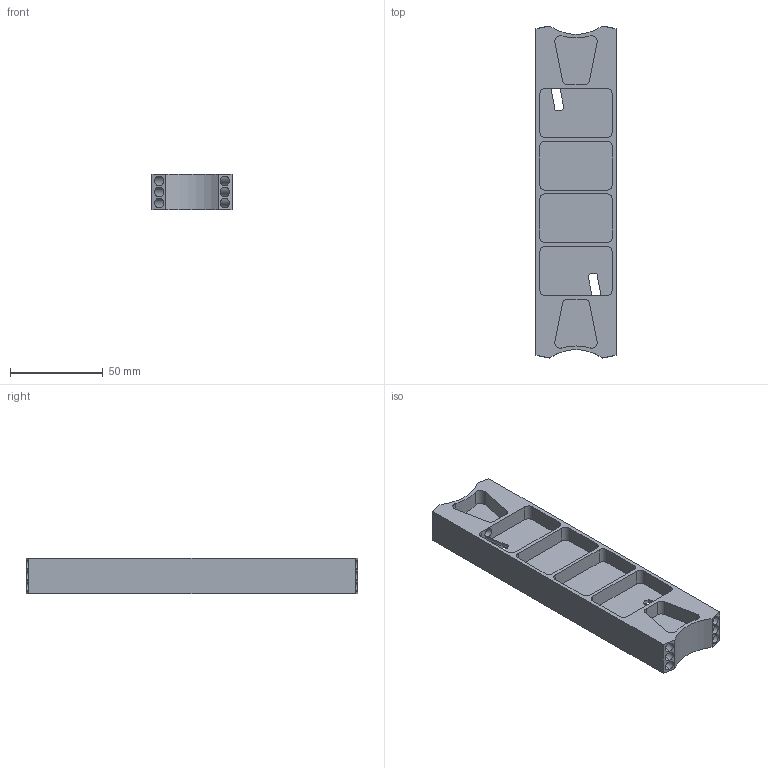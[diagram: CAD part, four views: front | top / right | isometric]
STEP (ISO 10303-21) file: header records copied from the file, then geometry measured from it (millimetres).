
FILE_DESCRIPTION(/* description */ ('(C) Elphel, Inc. 2026. Licensed under CERN OHL v.1.1 or later, see http://ohwr.org/cernohl'),/* implementation_level */ '2;1');
FILE_NAME(/* name */ '0393-18-81.stp',/* time_stamp */ '2026-08-12T10:53:43-07:00',/* author */ (''),/* organization */ ('Elphel, Inc'),/* preprocessor_version */ 'VariCAD 2020-1.02',/* originating_system */ 'VariCAD 2020-1.02; kernel version (20180118)',/* authorisation */ '');
FILE_SCHEMA(('AUTOMOTIVE_DESIGN'));
Length unit declared in the file: millimetre
Products named in the file (2): 0393-18-81
Assembly tree (1 placements, depth 2):
  0393-18-81
    0393-18-81
Bounding box: 43.16 x 178.88 x 19 mm (x, y, z)
Volume: 48682.2 mm3; surface area: 40868.1 mm2
Topology: 1 solids, 1 shells, 158 faces, 444 edges, 284 vertices
Faces by surface type: cylinder 78, plane 64, cone 16
Entity records: 5535 total; most frequent: CARTESIAN_POINT 1082, DIRECTION 876, ORIENTED_EDGE 856, EDGE_CURVE 428, AXIS2_PLACEMENT_3D 310, VERTEX_POINT 284, LINE 256, VECTOR 256
